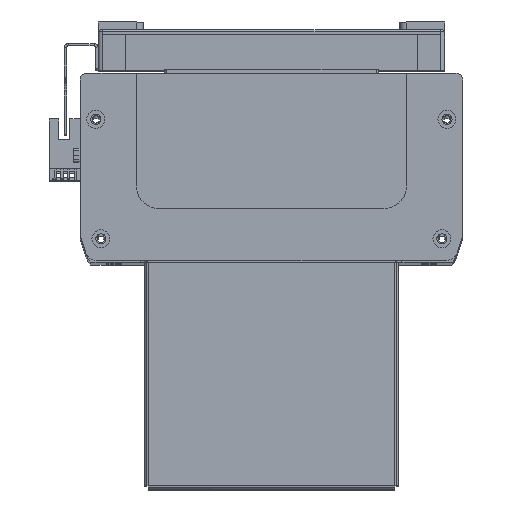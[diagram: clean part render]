
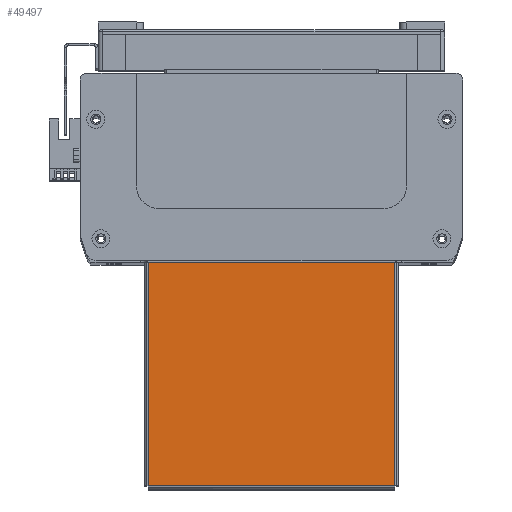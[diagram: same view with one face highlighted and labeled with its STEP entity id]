
A CAD part, top view. The second image highlights one B-rep face of the part: STEP entity #49497.
In plain terms, the highlighted planar face has unit normal (0, 0, 1).
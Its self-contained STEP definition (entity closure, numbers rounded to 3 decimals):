
#736 = CARTESIAN_POINT ( 'NONE',  ( 54.763, -49.263, 0. ) ) ;
#746 = CARTESIAN_POINT ( 'NONE',  ( -54.763, 50., 0. ) ) ;
#749 = CARTESIAN_POINT ( 'NONE',  ( -54.763, -49.263, 0. ) ) ;
#754 = CARTESIAN_POINT ( 'NONE',  ( 54.763, 50., 0. ) ) ;
#3537 = EDGE_CURVE ( 'NONE', #27786, #27751, #8961, .T. ) ;
#3555 = EDGE_CURVE ( 'NONE', #27849, #27771, #8962, .T. ) ;
#3561 = EDGE_CURVE ( 'NONE', #27751, #27849, #8968, .T. ) ;
#3571 = EDGE_CURVE ( 'NONE', #27771, #27786, #9147, .T. ) ;
#8961 = LINE ( 'NONE', #31042, #9052 ) ;
#8962 = LINE ( 'NONE', #31103, #8966 ) ;
#8966 = VECTOR ( 'NONE', #31092, 1000. ) ;
#8968 = LINE ( 'NONE', #31108, #8981 ) ;
#8981 = VECTOR ( 'NONE', #31110, 1000. ) ;
#9052 = VECTOR ( 'NONE', #31025, 1000. ) ;
#9091 = VECTOR ( 'NONE', #31163, 1000. ) ;
#9147 = LINE ( 'NONE', #31151, #9091 ) ;
#18174 = DIRECTION ( 'NONE',  ( 1., 0., 0. ) ) ;
#18187 = DIRECTION ( 'NONE',  ( 0., 0., 1. ) ) ;
#18197 = PLANE ( 'NONE',  #30072 ) ;
#18220 = CARTESIAN_POINT ( 'NONE',  ( 0., 0., 0. ) ) ;
#24795 = ORIENTED_EDGE ( 'NONE', *, *, #3561, .T. ) ;
#24823 = ORIENTED_EDGE ( 'NONE', *, *, #3571, .T. ) ;
#24832 = ORIENTED_EDGE ( 'NONE', *, *, #3555, .T. ) ;
#24883 = ORIENTED_EDGE ( 'NONE', *, *, #3537, .T. ) ;
#27751 = VERTEX_POINT ( 'NONE', #736 ) ;
#27771 = VERTEX_POINT ( 'NONE', #746 ) ;
#27786 = VERTEX_POINT ( 'NONE', #749 ) ;
#27849 = VERTEX_POINT ( 'NONE', #754 ) ;
#30072 = AXIS2_PLACEMENT_3D ( 'NONE', #18220, #18187, #18174 ) ;
#31025 = DIRECTION ( 'NONE',  ( 1., 0., 0. ) ) ;
#31042 = CARTESIAN_POINT ( 'NONE',  ( -54.793, -49.263, 0. ) ) ;
#31092 = DIRECTION ( 'NONE',  ( -1., 0., 0. ) ) ;
#31103 = CARTESIAN_POINT ( 'NONE',  ( -55.5, 50., 0. ) ) ;
#31108 = CARTESIAN_POINT ( 'NONE',  ( 54.763, -49.293, 0. ) ) ;
#31110 = DIRECTION ( 'NONE',  ( 0., 1., 0. ) ) ;
#31151 = CARTESIAN_POINT ( 'NONE',  ( -54.763, 50., 0. ) ) ;
#31163 = DIRECTION ( 'NONE',  ( 0., -1., 0. ) ) ;
#36379 = EDGE_LOOP ( 'NONE', ( #24823, #24883, #24795, #24832 ) ) ;
#43415 = FACE_OUTER_BOUND ( 'NONE', #36379, .T. ) ;
#49497 = ADVANCED_FACE ( 'NONE', ( #43415 ), #18197, .T. ) ;
